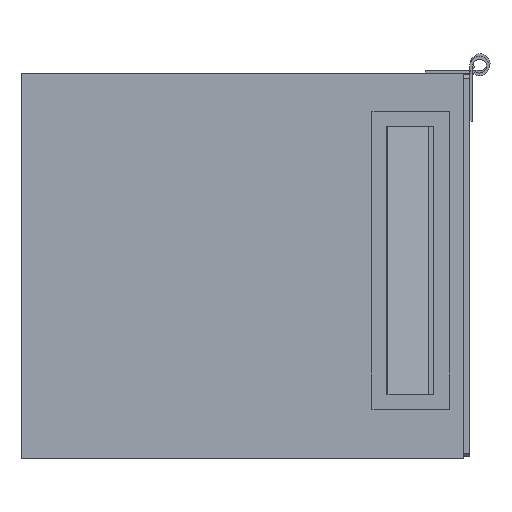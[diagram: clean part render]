
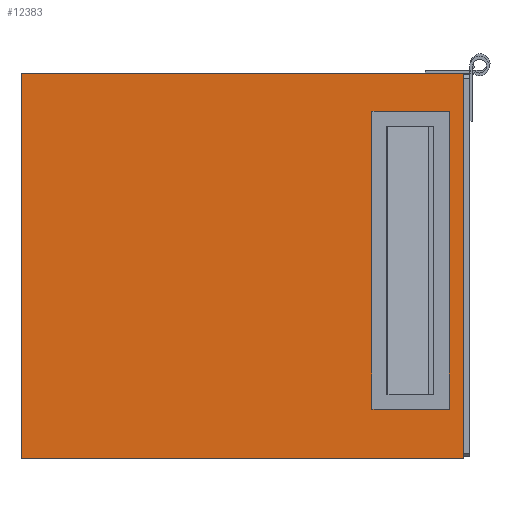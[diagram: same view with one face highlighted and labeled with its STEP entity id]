
A CAD part, front view. The second image highlights one B-rep face of the part: STEP entity #12383.
In plain terms, the highlighted planar face has unit normal (0, -1, 0).
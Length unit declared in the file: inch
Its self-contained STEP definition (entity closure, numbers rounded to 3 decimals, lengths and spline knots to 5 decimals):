
#1889 = DIRECTION ( 'NONE',  ( 1., 0., 0. ) ) ;
#1890 = VECTOR ( 'NONE', #1889, 39.37008 ) ;
#1891 = CARTESIAN_POINT ( 'NONE',  ( 7.999, 0., -0.31 ) ) ;
#1892 = LINE ( 'NONE', #1891, #1890 ) ;
#1987 = CARTESIAN_POINT ( 'NONE',  ( 8., 0., -0.31 ) ) ;
#2014 = CARTESIAN_POINT ( 'NONE',  ( 8., 0., 0. ) ) ;
#3908 = CARTESIAN_POINT ( 'NONE',  ( 8., 0., -0.311 ) ) ;
#4156 = CARTESIAN_POINT ( 'NONE',  ( 7.999, 0., -6.17 ) ) ;
#4157 = DIRECTION ( 'NONE',  ( 0., 0., -1. ) ) ;
#4158 = VECTOR ( 'NONE', #4157, 39.37008 ) ;
#4159 = CARTESIAN_POINT ( 'NONE',  ( 7.999, 0., -6.169 ) ) ;
#4245 = LINE ( 'NONE', #4159, #4158 ) ;
#4348 = CARTESIAN_POINT ( 'NONE',  ( 7.999, 0., -6.169 ) ) ;
#4446 = CARTESIAN_POINT ( 'NONE',  ( 8., 0., -6.98 ) ) ;
#4549 = DIRECTION ( 'NONE',  ( 1., 0., 0. ) ) ;
#4550 = VECTOR ( 'NONE', #4549, 39.37008 ) ;
#4551 = CARTESIAN_POINT ( 'NONE',  ( 7.999, 0., -6.169 ) ) ;
#4552 = LINE ( 'NONE', #4551, #4550 ) ;
#4553 = CARTESIAN_POINT ( 'NONE',  ( 7.999, 0., -0.31 ) ) ;
#4558 = CARTESIAN_POINT ( 'NONE',  ( 8., 0., -6.169 ) ) ;
#4559 = DIRECTION ( 'NONE',  ( 0., 0., -1. ) ) ;
#4560 = VECTOR ( 'NONE', #4559, 39.37008 ) ;
#4561 = CARTESIAN_POINT ( 'NONE',  ( 8., 0., 0. ) ) ;
#4562 = LINE ( 'NONE', #4561, #4560 ) ;
#4567 = DIRECTION ( 'NONE',  ( 1., 0., 0. ) ) ;
#4568 = VECTOR ( 'NONE', #4567, 39.37008 ) ;
#4569 = CARTESIAN_POINT ( 'NONE',  ( 7.999, 0., -0.311 ) ) ;
#4570 = LINE ( 'NONE', #4569, #4568 ) ;
#4574 = CARTESIAN_POINT ( 'NONE',  ( 8., 0., 0. ) ) ;
#4576 = DIRECTION ( 'NONE',  ( 1., 0., 0. ) ) ;
#4577 = VECTOR ( 'NONE', #4576, 39.37008 ) ;
#4578 = CARTESIAN_POINT ( 'NONE',  ( 7.74631, 0., -6.09 ) ) ;
#4579 = LINE ( 'NONE', #4578, #4577 ) ;
#4634 = DIRECTION ( 'NONE',  ( -1., 0., 0. ) ) ;
#4635 = VECTOR ( 'NONE', #4634, 39.37008 ) ;
#4636 = CARTESIAN_POINT ( 'NONE',  ( 8., 0., -6.98 ) ) ;
#4637 = LINE ( 'NONE', #4636, #4635 ) ;
#4697 = DIRECTION ( 'NONE',  ( 1., 0., 0. ) ) ;
#4698 = VECTOR ( 'NONE', #4697, 39.37008 ) ;
#4699 = CARTESIAN_POINT ( 'NONE',  ( 7.999, 0., -6.17 ) ) ;
#4700 = LINE ( 'NONE', #4699, #4698 ) ;
#4701 = CARTESIAN_POINT ( 'NONE',  ( 0., 0., -6.98 ) ) ;
#4703 = CARTESIAN_POINT ( 'NONE',  ( 8., 0., -6.17 ) ) ;
#4713 = DIRECTION ( 'NONE',  ( 0., 0., -1. ) ) ;
#4714 = VECTOR ( 'NONE', #4713, 39.37008 ) ;
#4715 = CARTESIAN_POINT ( 'NONE',  ( 8., 0., 0. ) ) ;
#4716 = LINE ( 'NONE', #4715, #4714 ) ;
#4761 = LINE ( 'NONE', #4574, #5175 ) ;
#4851 = DIRECTION ( 'NONE',  ( 0., 0., -1. ) ) ;
#4852 = VECTOR ( 'NONE', #4851, 39.37008 ) ;
#4853 = CARTESIAN_POINT ( 'NONE',  ( 6.34631, 0., -0.69 ) ) ;
#4854 = LINE ( 'NONE', #4853, #4852 ) ;
#4893 = CARTESIAN_POINT ( 'NONE',  ( 7.999, 0., -0.311 ) ) ;
#4894 = DIRECTION ( 'NONE',  ( 0., 0., -1. ) ) ;
#4895 = VECTOR ( 'NONE', #4894, 39.37008 ) ;
#4896 = CARTESIAN_POINT ( 'NONE',  ( 7.999, 0., -0.31 ) ) ;
#4897 = LINE ( 'NONE', #4896, #4895 ) ;
#5026 = DIRECTION ( 'NONE',  ( -1., 0., 0. ) ) ;
#5027 = VECTOR ( 'NONE', #5026, 39.37008 ) ;
#5029 = CARTESIAN_POINT ( 'NONE',  ( 7.74631, 0., -0.69 ) ) ;
#5030 = LINE ( 'NONE', #5029, #5027 ) ;
#5037 = CARTESIAN_POINT ( 'NONE',  ( 6.34631, 0., -6.09 ) ) ;
#5038 = CARTESIAN_POINT ( 'NONE',  ( 7.74631, 0., -0.69 ) ) ;
#5040 = DIRECTION ( 'NONE',  ( 0., 0., 1. ) ) ;
#5042 = VECTOR ( 'NONE', #5040, 39.37008 ) ;
#5043 = CARTESIAN_POINT ( 'NONE',  ( 7.74631, 0., -0.69 ) ) ;
#5044 = LINE ( 'NONE', #5043, #5042 ) ;
#5052 = CARTESIAN_POINT ( 'NONE',  ( 6.34631, 0., -0.69 ) ) ;
#5057 = CARTESIAN_POINT ( 'NONE',  ( 7.74631, 0., -6.09 ) ) ;
#5175 = VECTOR ( 'NONE', #5190, 39.37008 ) ;
#5190 = DIRECTION ( 'NONE',  ( -1., 0., 0. ) ) ;
#5207 = CARTESIAN_POINT ( 'NONE',  ( 0., 0., 0. ) ) ;
#5505 = DIRECTION ( 'NONE',  ( 0., 0., -1. ) ) ;
#5506 = VECTOR ( 'NONE', #5505, 39.37008 ) ;
#5508 = CARTESIAN_POINT ( 'NONE',  ( 8., 0., 0. ) ) ;
#5509 = LINE ( 'NONE', #5508, #5506 ) ;
#5515 = DIRECTION ( 'NONE',  ( 1., 0., 0. ) ) ;
#5517 = DIRECTION ( 'NONE',  ( 0., 1., 0. ) ) ;
#5519 = CARTESIAN_POINT ( 'NONE',  ( 8., 0., 0. ) ) ;
#5520 = AXIS2_PLACEMENT_3D ( 'NONE', #5519, #5517, #5515 ) ;
#5522 = PLANE ( 'NONE',  #5520 ) ;
#5526 = FACE_OUTER_BOUND ( 'NONE', #18111, .T. ) ;
#5528 = FACE_BOUND ( 'NONE', #12381, .T. ) ;
#5529 = DIRECTION ( 'NONE',  ( 0., 0., -1. ) ) ;
#5530 = VECTOR ( 'NONE', #5529, 39.37008 ) ;
#5531 = CARTESIAN_POINT ( 'NONE',  ( 0., 0., 0. ) ) ;
#5532 = LINE ( 'NONE', #5531, #5530 ) ;
#11394 = VERTEX_POINT ( 'NONE', #3908 ) ;
#11446 = EDGE_CURVE ( 'NONE', #11452, #11447, #4245, .T. ) ;
#11447 = VERTEX_POINT ( 'NONE', #4156 ) ;
#11452 = VERTEX_POINT ( 'NONE', #4348 ) ;
#11486 = VERTEX_POINT ( 'NONE', #4446 ) ;
#11572 = EDGE_CURVE ( 'NONE', #11577, #11486, #4716, .T. ) ;
#11577 = VERTEX_POINT ( 'NONE', #4703 ) ;
#11582 = VERTEX_POINT ( 'NONE', #4701 ) ;
#11587 = EDGE_CURVE ( 'NONE', #11447, #11577, #4700, .T. ) ;
#11597 = EDGE_CURVE ( 'NONE', #11486, #11582, #4637, .T. ) ;
#11652 = EDGE_CURVE ( 'NONE', #11716, #11394, #4570, .T. ) ;
#11656 = EDGE_CURVE ( 'NONE', #11394, #11657, #4562, .T. ) ;
#11657 = VERTEX_POINT ( 'NONE', #4558 ) ;
#11664 = VERTEX_POINT ( 'NONE', #4553 ) ;
#11667 = EDGE_CURVE ( 'NONE', #11452, #11657, #4552, .T. ) ;
#11690 = EDGE_CURVE ( 'NONE', #11787, #11775, #4579, .T. ) ;
#11706 = EDGE_CURVE ( 'NONE', #11778, #11787, #4854, .T. ) ;
#11715 = EDGE_CURVE ( 'NONE', #11664, #11716, #4897, .T. ) ;
#11716 = VERTEX_POINT ( 'NONE', #4893 ) ;
#11775 = VERTEX_POINT ( 'NONE', #5057 ) ;
#11778 = VERTEX_POINT ( 'NONE', #5052 ) ;
#11785 = EDGE_CURVE ( 'NONE', #11775, #11786, #5044, .T. ) ;
#11786 = VERTEX_POINT ( 'NONE', #5038 ) ;
#11787 = VERTEX_POINT ( 'NONE', #5037 ) ;
#11793 = EDGE_CURVE ( 'NONE', #11786, #11778, #5030, .T. ) ;
#12181 = EDGE_CURVE ( 'NONE', #18214, #12182, #4761, .T. ) ;
#12182 = VERTEX_POINT ( 'NONE', #5207 ) ;
#12184 = ORIENTED_EDGE ( 'NONE', *, *, #11785, .F. ) ;
#12185 = ORIENTED_EDGE ( 'NONE', *, *, #11446, .F. ) ;
#12186 = ORIENTED_EDGE ( 'NONE', *, *, #11667, .T. ) ;
#12187 = ORIENTED_EDGE ( 'NONE', *, *, #11656, .F. ) ;
#12188 = ORIENTED_EDGE ( 'NONE', *, *, #12376, .T. ) ;
#12376 = EDGE_CURVE ( 'NONE', #12182, #11582, #5532, .T. ) ;
#12381 = EDGE_LOOP ( 'NONE', ( #12382, #12184, #18219, #18140 ) ) ;
#12382 = ORIENTED_EDGE ( 'NONE', *, *, #11793, .F. ) ;
#12383 = ADVANCED_FACE ( 'NONE', ( #5528, #5526 ), #5522, .F. ) ;
#12384 = ORIENTED_EDGE ( 'NONE', *, *, #12385, .F. ) ;
#12385 = EDGE_CURVE ( 'NONE', #18214, #18272, #5509, .T. ) ;
#18111 = EDGE_LOOP ( 'NONE', ( #12185, #12186, #12187, #18216, #18213, #18141, #12384, #18187, #12188, #18139, #18217, #18218 ) ) ;
#18139 = ORIENTED_EDGE ( 'NONE', *, *, #11597, .F. ) ;
#18140 = ORIENTED_EDGE ( 'NONE', *, *, #11706, .F. ) ;
#18141 = ORIENTED_EDGE ( 'NONE', *, *, #18196, .T. ) ;
#18187 = ORIENTED_EDGE ( 'NONE', *, *, #12181, .T. ) ;
#18196 = EDGE_CURVE ( 'NONE', #11664, #18272, #1892, .T. ) ;
#18213 = ORIENTED_EDGE ( 'NONE', *, *, #11715, .F. ) ;
#18214 = VERTEX_POINT ( 'NONE', #2014 ) ;
#18216 = ORIENTED_EDGE ( 'NONE', *, *, #11652, .F. ) ;
#18217 = ORIENTED_EDGE ( 'NONE', *, *, #11572, .F. ) ;
#18218 = ORIENTED_EDGE ( 'NONE', *, *, #11587, .F. ) ;
#18219 = ORIENTED_EDGE ( 'NONE', *, *, #11690, .F. ) ;
#18272 = VERTEX_POINT ( 'NONE', #1987 ) ;
